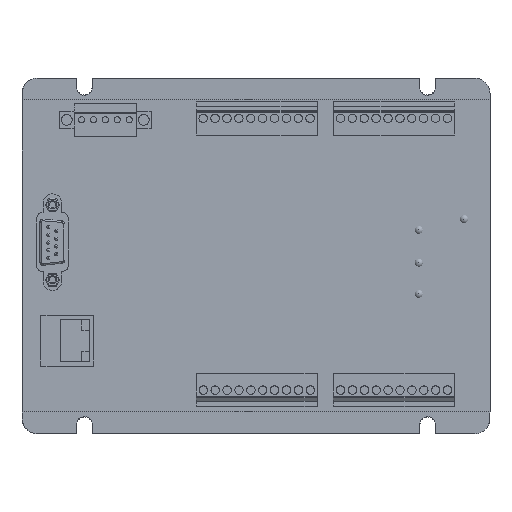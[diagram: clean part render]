
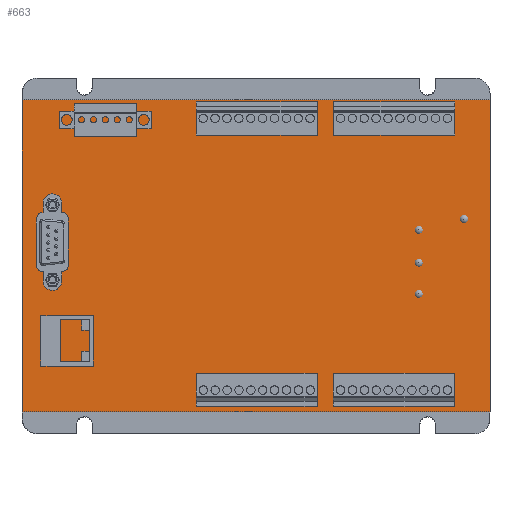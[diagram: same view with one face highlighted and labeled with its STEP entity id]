
A CAD part, top view. The second image highlights one B-rep face of the part: STEP entity #663.
In plain terms, the highlighted planar face has unit normal (0, 0, 1).
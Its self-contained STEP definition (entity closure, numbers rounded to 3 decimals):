
#61=B_SPLINE_CURVE_WITH_KNOTS('',3,(#7919,#7920,#7921,#7922),
 .UNSPECIFIED.,.F.,.F.,(4,4),(0.,1.),.UNSPECIFIED.);
#62=B_SPLINE_CURVE_WITH_KNOTS('',3,(#7928,#7929,#7930,#7931),
 .UNSPECIFIED.,.F.,.F.,(4,4),(0.,1.),.UNSPECIFIED.);
#63=B_SPLINE_CURVE_WITH_KNOTS('',3,(#7933,#7934,#7935,#7936),
 .UNSPECIFIED.,.F.,.F.,(4,4),(0.,1.),.UNSPECIFIED.);
#64=B_SPLINE_CURVE_WITH_KNOTS('',3,(#7938,#7939,#7940,#7941),
 .UNSPECIFIED.,.F.,.F.,(4,4),(0.,1.),.UNSPECIFIED.);
#400=FACE_OUTER_BOUND('',#2253,.T.);
#663=ADVANCED_FACE('',(#400),#983,.F.);
#983=PLANE('',#5348);
#2253=EDGE_LOOP('',(#2932,#2933,#2934,#2935));
#2932=ORIENTED_EDGE('',*,*,#4556,.T.);
#2933=ORIENTED_EDGE('',*,*,#4552,.T.);
#2934=ORIENTED_EDGE('',*,*,#4557,.T.);
#2935=ORIENTED_EDGE('',*,*,#4555,.T.);
#4048=VERTEX_POINT('',#7916);
#4049=VERTEX_POINT('',#7918);
#4050=VERTEX_POINT('',#7925);
#4051=VERTEX_POINT('',#7927);
#4552=EDGE_CURVE('',#4048,#4049,#61,.T.);
#4555=EDGE_CURVE('',#4050,#4051,#62,.T.);
#4556=EDGE_CURVE('',#4051,#4048,#63,.T.);
#4557=EDGE_CURVE('',#4049,#4050,#64,.T.);
#5348=AXIS2_PLACEMENT_3D('',#7943,#6039,#6040);
#6039=DIRECTION('',(0.,0.,-1.));
#6040=DIRECTION('',(-1.,0.,0.));
#7916=CARTESIAN_POINT('',(834.259,553.52,0.1));
#7918=CARTESIAN_POINT('',(834.259,453.52,0.1));
#7919=CARTESIAN_POINT('',(834.259,553.52,0.1));
#7920=CARTESIAN_POINT('',(834.259,520.187,0.1));
#7921=CARTESIAN_POINT('',(834.259,486.853,0.1));
#7922=CARTESIAN_POINT('',(834.259,453.52,0.1));
#7925=CARTESIAN_POINT('',(984.259,453.52,0.1));
#7927=CARTESIAN_POINT('',(984.259,553.52,0.1));
#7928=CARTESIAN_POINT('',(984.259,453.52,0.1));
#7929=CARTESIAN_POINT('',(984.259,486.853,0.1));
#7930=CARTESIAN_POINT('',(984.259,520.187,0.1));
#7931=CARTESIAN_POINT('',(984.259,553.52,0.1));
#7933=CARTESIAN_POINT('',(984.259,553.52,0.1));
#7934=CARTESIAN_POINT('',(934.259,553.52,0.1));
#7935=CARTESIAN_POINT('',(884.259,553.52,0.1));
#7936=CARTESIAN_POINT('',(834.259,553.52,0.1));
#7938=CARTESIAN_POINT('',(834.259,453.52,0.1));
#7939=CARTESIAN_POINT('',(884.259,453.52,0.1));
#7940=CARTESIAN_POINT('',(934.259,453.52,0.1));
#7941=CARTESIAN_POINT('',(984.259,453.52,0.1));
#7943=CARTESIAN_POINT('',(909.259,553.52,0.1));
